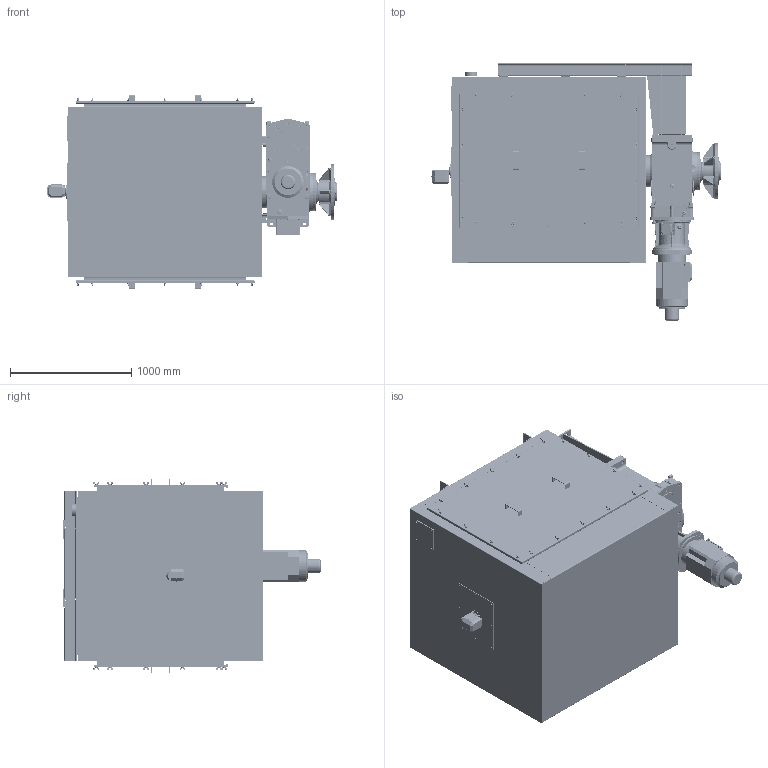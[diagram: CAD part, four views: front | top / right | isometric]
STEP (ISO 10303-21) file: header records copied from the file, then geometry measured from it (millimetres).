
FILE_DESCRIPTION(/* description */ (''),/* implementation_level */ '2;1');
FILE_NAME(/* name */ 'K:\NEMANJA\CABLE REEL\CABLE REEL DA\0700-6\07006005 DA-CRVD\STEP\75961.stp',/* time_stamp */ '2017-03-16T13:40:33+01:00',/* author */ ('zeldjo01'),/* organization */ ('Hillmar Industries Ltd.'),/* preprocessor_version */ 'ST-DEVELOPER v16.1',/* originating_system */ 'Autodesk Inventor 2016',/* authorisation */ '');
FILE_SCHEMA (('AUTOMOTIVE_DESIGN { 1 0 10303 214 3 1 1 }'));
Products named in the file (1): 75961
Bounding box: 2386.13 x 2122.09 x 1606.6 mm (x, y, z)
Volume: 164943560.8 mm3; surface area: 44933964.1 mm2
Topology: 11 solids, 11 shells, 5528 faces, 14455 edges, 9245 vertices
Faces by surface type: plane 2682, cylinder 1521, bspline 591, cone 497, torus 211, sphere 26
Full cylindrical faces by diameter (mm): 7 x4, 8 x2, 8.376 x52, 8.731 x1, 9 x7, 10 x24, 10.106 x91, 11 x12, 12 x1, 12.5 x6, 13 x66, 13.5 x12, 14 x20, 14.5 x8, 15 x4, 16 x2, 18.256 x3, 18.38 x4, 20 x28, 20.5 x4, 21.336 x1, 22 x20, 22.225 x1, 22.3 x4, 23.376 x1, 23.812 x2, 24.917 x1, 24.918 x1, 25 x7, 27 x4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
Entity records: 184150 total; most frequent: CARTESIAN_POINT 50377, ORIENTED_EDGE 26434, DIRECTION 25438, EDGE_CURVE 13207, AXIS2_PLACEMENT_3D 9190, VERTEX_POINT 8807, LINE 7058, VECTOR 7058
